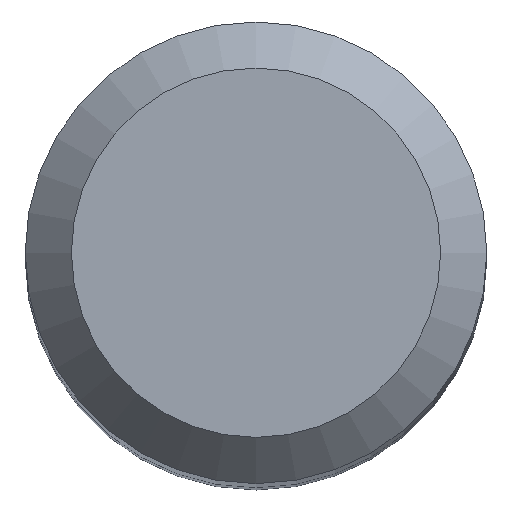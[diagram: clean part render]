
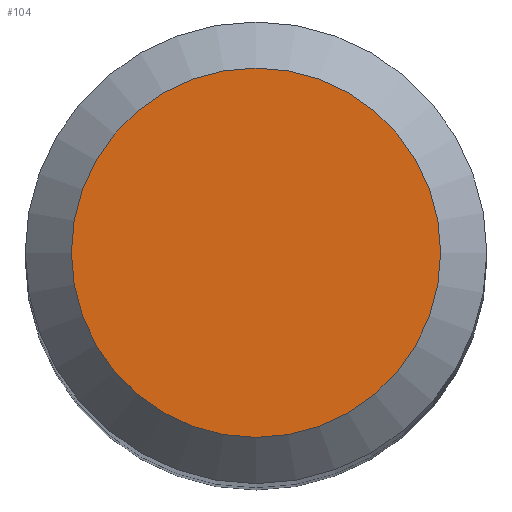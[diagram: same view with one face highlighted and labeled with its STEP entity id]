
A CAD part, top view. The second image highlights one B-rep face of the part: STEP entity #104.
In plain terms, the highlighted planar face has unit normal (0, 0, 1).
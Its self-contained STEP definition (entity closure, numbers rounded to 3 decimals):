
#88=CARTESIAN_POINT('',(4.0,0.0,80.0));
#89=DIRECTION('',(0.0,0.0,1.0));
#90=DIRECTION('',(1.0,0.0,0.0));
#91=AXIS2_PLACEMENT_3D('',#88,#89,#90);
#92=PLANE('',#91);
#93=CARTESIAN_POINT('',(-4.0,0.0,80.0));
#94=VERTEX_POINT('',#93);
#95=CARTESIAN_POINT('',(0.0,0.0,80.0));
#96=DIRECTION('',(0.0,0.0,-1.0));
#97=DIRECTION('',(-1.0,0.0,0.0));
#98=AXIS2_PLACEMENT_3D('',#95,#96,#97);
#99=CIRCLE('',#98,4.0);
#100=EDGE_CURVE('',#94,#94,#99,.T.);
#101=ORIENTED_EDGE('',*,*,#100,.F.);
#102=EDGE_LOOP('',(#101));
#103=FACE_OUTER_BOUND('',#102,.T.);
#104=ADVANCED_FACE('',(#103),#92,.T.);
